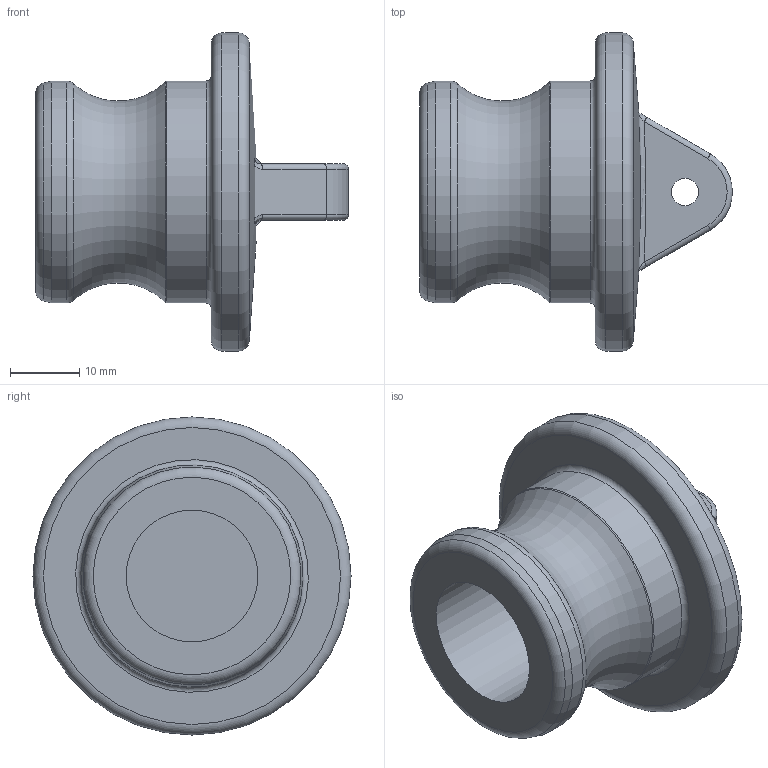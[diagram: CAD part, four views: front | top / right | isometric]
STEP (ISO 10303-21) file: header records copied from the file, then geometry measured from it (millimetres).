
FILE_DESCRIPTION(/* description */ ('Alibre Inc.'),/* implementation_level */ '2;1');
FILE_NAME(/* name */ 'export0',/* time_stamp */ '2016-03-15T17:51:13-04:00',/* author */ (''),/* organization */ (''),/* preprocessor_version */ 'ST-DEVELOPER v14',/* originating_system */ 'Alibre',/* authorisation */ '');
FILE_SCHEMA (('CONFIG_CONTROL_DESIGN'));
Length unit declared in the file: centimetre
Products named in the file (1): ID_1
Bounding box: 45.21 x 45.97 x 45.97 mm (x, y, z)
Volume: 23520.8 mm3; surface area: 8063.3 mm2
Topology: 1 solids, 1 shells, 34 faces, 72 edges, 43 vertices
Faces by surface type: torus 10, cylinder 10, plane 7, bspline 4, cone 2, sphere 1
Full cylindrical faces by diameter (mm): 3.936 x1, 19.05 x1, 32.106 x2, 45.974 x1
Entity records: 1684 total; most frequent: CARTESIAN_POINT 952, DIRECTION 123, ORIENTED_EDGE 114, AXIS2_PLACEMENT_3D 65, EDGE_CURVE 57, EDGE_LOOP 52, FACE_BOUND 52, VERTEX_POINT 41
